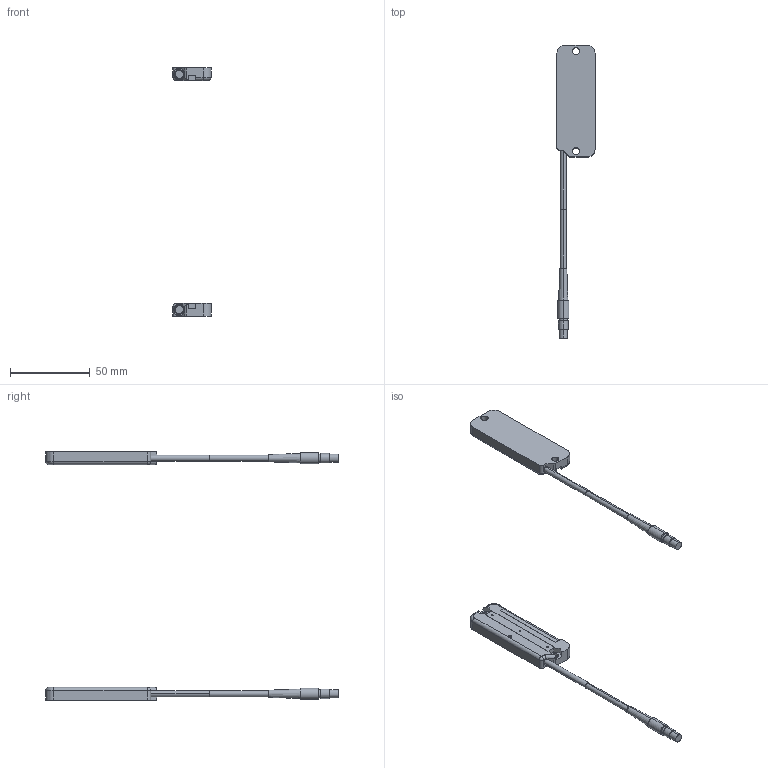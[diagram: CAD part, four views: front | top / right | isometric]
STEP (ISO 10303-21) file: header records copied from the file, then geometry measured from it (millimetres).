
FILE_DESCRIPTION (( 'STEP AP203' ), '1' );
FILE_NAME ('NA1-PK3.STEP', '2005-11-09T07:22:58', ( '' ), ( '' ), 'SwSTEP 2.0', 'SolidWorks 2004073', '' );
FILE_SCHEMA (( 'CONFIG_CONTROL_DESIGN' ));
Length unit declared in the file: millimetre
Products named in the file (3): NA1-PK3P_蹬怮椔; NA1-PK3D_蹬怮椔; NA1-PK3
Assembly tree (2 placements, depth 2):
  NA1-PK3
    NA1-PK3P_蹬怮椔
    NA1-PK3D_蹬怮椔
Bounding box: 24 x 184 x 156 mm (x, y, z)
Volume: 28837.1 mm3; surface area: 12966.1 mm2
Topology: 4 solids, 4 shells, 185 faces, 451 edges, 290 vertices
Faces by surface type: plane 100, cylinder 74, torus 5, cone 4, sphere 2
Entity records: 5731 total; most frequent: CARTESIAN_POINT 977, DIRECTION 968, ORIENTED_EDGE 898, EDGE_CURVE 449, AXIS2_PLACEMENT_3D 345, VERTEX_POINT 290, VECTOR 278, LINE 278
